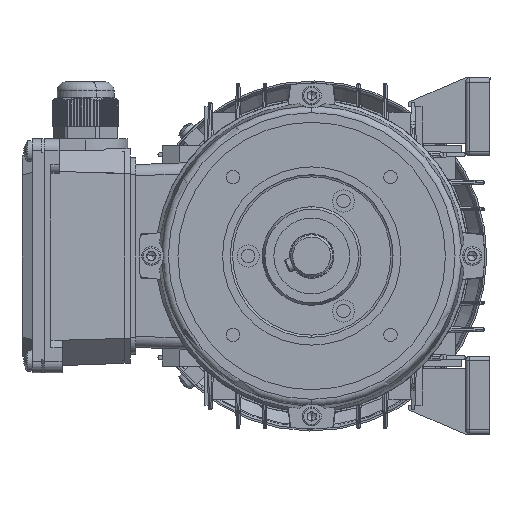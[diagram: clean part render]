
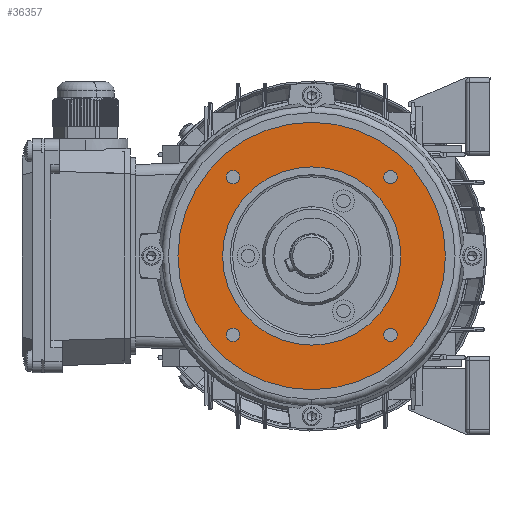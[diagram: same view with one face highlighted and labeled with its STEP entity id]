
A CAD part, left-side view. The second image highlights one B-rep face of the part: STEP entity #36357.
In plain terms, the highlighted planar face has unit normal (-1, 0, 0).
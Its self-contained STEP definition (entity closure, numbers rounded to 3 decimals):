
#57 = AXIS2_PLACEMENT_3D ( 'NONE', #102629, #90142, #77668 ) ;
#815 = CIRCLE ( 'NONE', #57, 40. ) ;
#1204 = CARTESIAN_POINT ( 'NONE',  ( 3., 0., 0. ) ) ;
#2093 = ORIENTED_EDGE ( 'NONE', *, *, #99216, .T. ) ;
#2848 = CIRCLE ( 'NONE', #53920, 60. ) ;
#3923 = VERTEX_POINT ( 'NONE', #84645 ) ;
#5276 = ORIENTED_EDGE ( 'NONE', *, *, #87712, .F. ) ;
#6150 = ORIENTED_EDGE ( 'NONE', *, *, #39615, .T. ) ;
#6415 = CARTESIAN_POINT ( 'NONE',  ( 3., 0., 60. ) ) ;
#6441 = CIRCLE ( 'NONE', #79436, 3. ) ;
#8243 = VERTEX_POINT ( 'NONE', #121411 ) ;
#8485 = CARTESIAN_POINT ( 'NONE',  ( 3., -35.355, -35.355 ) ) ;
#9315 = DIRECTION ( 'NONE',  ( 1., 0., 0. ) ) ;
#9932 = CARTESIAN_POINT ( 'NONE',  ( 3., 35.355, -32.355 ) ) ;
#11653 = AXIS2_PLACEMENT_3D ( 'NONE', #21135, #117996, #105533 ) ;
#12021 = VERTEX_POINT ( 'NONE', #6415 ) ;
#16334 = EDGE_CURVE ( 'NONE', #55358, #69787, #66948, .T. ) ;
#17006 = CARTESIAN_POINT ( 'NONE',  ( 3., 0., 0. ) ) ;
#18445 = DIRECTION ( 'NONE',  ( 0., 0., -1. ) ) ;
#19409 = AXIS2_PLACEMENT_3D ( 'NONE', #67683, #55233, #42771 ) ;
#20410 = ORIENTED_EDGE ( 'NONE', *, *, #100701, .T. ) ;
#21135 = CARTESIAN_POINT ( 'NONE',  ( 3., -35.355, 35.355 ) ) ;
#21249 = EDGE_CURVE ( 'NONE', #108180, #116247, #6441, .T. ) ;
#21806 = CARTESIAN_POINT ( 'NONE',  ( 3., 40., 0. ) ) ;
#24131 = CIRCLE ( 'NONE', #42537, 3. ) ;
#28409 = AXIS2_PLACEMENT_3D ( 'NONE', #65370, #52929, #40447 ) ;
#30955 = DIRECTION ( 'NONE',  ( 1., 0., 0. ) ) ;
#31699 = AXIS2_PLACEMENT_3D ( 'NONE', #17006, #88925, #76431 ) ;
#35713 = DIRECTION ( 'NONE',  ( 0., 0., 1. ) ) ;
#36357 = ADVANCED_FACE ( 'NONE', ( #51565, #57829, #60956, #64096, #70383, #76689 ), #46773, .F. ) ;
#36514 = EDGE_CURVE ( 'NONE', #12021, #43136, #114755, .T. ) ;
#37193 = EDGE_LOOP ( 'NONE', ( #5276, #118831 ) ) ;
#39615 = EDGE_CURVE ( 'NONE', #66086, #99399, #60856, .T. ) ;
#40447 = DIRECTION ( 'NONE',  ( 0., 0., -1. ) ) ;
#40477 = CIRCLE ( 'NONE', #48049, 3. ) ;
#41073 = EDGE_CURVE ( 'NONE', #69787, #55358, #89764, .T. ) ;
#42537 = AXIS2_PLACEMENT_3D ( 'NONE', #43421, #30955, #18445 ) ;
#42771 = DIRECTION ( 'NONE',  ( 0., 0., -1. ) ) ;
#42908 = EDGE_LOOP ( 'NONE', ( #103265, #89569 ) ) ;
#42947 = AXIS2_PLACEMENT_3D ( 'NONE', #1204, #48193, #35713 ) ;
#43136 = VERTEX_POINT ( 'NONE', #81365 ) ;
#43421 = CARTESIAN_POINT ( 'NONE',  ( 3., 35.355, -35.355 ) ) ;
#44403 = EDGE_CURVE ( 'NONE', #3923, #8243, #110980, .T. ) ;
#44979 = CARTESIAN_POINT ( 'NONE',  ( 3., -35.355, -32.355 ) ) ;
#45245 = AXIS2_PLACEMENT_3D ( 'NONE', #119173, #106727, #94201 ) ;
#45285 = AXIS2_PLACEMENT_3D ( 'NONE', #21806, #9315, #118671 ) ;
#46773 = PLANE ( 'NONE',  #45285 ) ;
#48049 = AXIS2_PLACEMENT_3D ( 'NONE', #119180, #106733, #94206 ) ;
#48193 = DIRECTION ( 'NONE',  ( -1., 0., 0. ) ) ;
#50345 = VERTEX_POINT ( 'NONE', #9932 ) ;
#50663 = EDGE_CURVE ( 'NONE', #116247, #108180, #40477, .T. ) ;
#51565 = FACE_BOUND ( 'NONE', #100033, .T. ) ;
#52929 = DIRECTION ( 'NONE',  ( 1., 0., 0. ) ) ;
#53920 = AXIS2_PLACEMENT_3D ( 'NONE', #118411, #105949, #93447 ) ;
#53969 = CARTESIAN_POINT ( 'NONE',  ( 3., 35.355, 38.355 ) ) ;
#55233 = DIRECTION ( 'NONE',  ( 1., 0., 0. ) ) ;
#55358 = VERTEX_POINT ( 'NONE', #102937 ) ;
#57829 = FACE_BOUND ( 'NONE', #63547, .T. ) ;
#60856 = CIRCLE ( 'NONE', #19409, 3. ) ;
#60956 = FACE_BOUND ( 'NONE', #84936, .T. ) ;
#62057 = EDGE_LOOP ( 'NONE', ( #68559, #2093 ) ) ;
#63547 = EDGE_LOOP ( 'NONE', ( #71222, #112896 ) ) ;
#64096 = FACE_BOUND ( 'NONE', #42908, .T. ) ;
#65370 = CARTESIAN_POINT ( 'NONE',  ( 3., -35.355, 35.355 ) ) ;
#66086 = VERTEX_POINT ( 'NONE', #44979 ) ;
#66903 = ORIENTED_EDGE ( 'NONE', *, *, #21249, .T. ) ;
#66948 = CIRCLE ( 'NONE', #28409, 3. ) ;
#67683 = CARTESIAN_POINT ( 'NONE',  ( 3., -35.355, -35.355 ) ) ;
#67810 = CARTESIAN_POINT ( 'NONE',  ( 3., 35.355, -38.355 ) ) ;
#68559 = ORIENTED_EDGE ( 'NONE', *, *, #36514, .T. ) ;
#69787 = VERTEX_POINT ( 'NONE', #98308 ) ;
#70383 = FACE_BOUND ( 'NONE', #37193, .T. ) ;
#71222 = ORIENTED_EDGE ( 'NONE', *, *, #41073, .T. ) ;
#72571 = VERTEX_POINT ( 'NONE', #67810 ) ;
#75928 = CARTESIAN_POINT ( 'NONE',  ( 3., 35.355, 32.355 ) ) ;
#76431 = DIRECTION ( 'NONE',  ( 0., 0., 1. ) ) ;
#76689 = FACE_OUTER_BOUND ( 'NONE', #62057, .T. ) ;
#77668 = DIRECTION ( 'NONE',  ( 0., 0., 1. ) ) ;
#79436 = AXIS2_PLACEMENT_3D ( 'NONE', #111746, #99214, #86742 ) ;
#81365 = CARTESIAN_POINT ( 'NONE',  ( 3., 0., -60. ) ) ;
#82455 = EDGE_CURVE ( 'NONE', #72571, #50345, #24131, .T. ) ;
#84645 = CARTESIAN_POINT ( 'NONE',  ( 3., 0., -40. ) ) ;
#84936 = EDGE_LOOP ( 'NONE', ( #20410, #6150 ) ) ;
#86742 = DIRECTION ( 'NONE',  ( 0., 0., -1. ) ) ;
#87027 = AXIS2_PLACEMENT_3D ( 'NONE', #8485, #117837, #105366 ) ;
#87712 = EDGE_CURVE ( 'NONE', #8243, #3923, #815, .T. ) ;
#88925 = DIRECTION ( 'NONE',  ( -1., 0., 0. ) ) ;
#89569 = ORIENTED_EDGE ( 'NONE', *, *, #91455, .T. ) ;
#89764 = CIRCLE ( 'NONE', #11653, 3. ) ;
#90142 = DIRECTION ( 'NONE',  ( -1., 0., 0. ) ) ;
#91455 = EDGE_CURVE ( 'NONE', #50345, #72571, #96749, .T. ) ;
#93447 = DIRECTION ( 'NONE',  ( 0., 0., 1. ) ) ;
#94201 = DIRECTION ( 'NONE',  ( 0., 0., -1. ) ) ;
#94206 = DIRECTION ( 'NONE',  ( 0., 0., -1. ) ) ;
#96749 = CIRCLE ( 'NONE', #45245, 3. ) ;
#98308 = CARTESIAN_POINT ( 'NONE',  ( 3., -35.355, 32.355 ) ) ;
#99214 = DIRECTION ( 'NONE',  ( 1., 0., 0. ) ) ;
#99216 = EDGE_CURVE ( 'NONE', #43136, #12021, #2848, .T. ) ;
#99399 = VERTEX_POINT ( 'NONE', #120538 ) ;
#100033 = EDGE_LOOP ( 'NONE', ( #121423, #66903 ) ) ;
#100701 = EDGE_CURVE ( 'NONE', #99399, #66086, #107133, .T. ) ;
#102629 = CARTESIAN_POINT ( 'NONE',  ( 3., 0., 0. ) ) ;
#102937 = CARTESIAN_POINT ( 'NONE',  ( 3., -35.355, 38.355 ) ) ;
#103265 = ORIENTED_EDGE ( 'NONE', *, *, #82455, .T. ) ;
#105366 = DIRECTION ( 'NONE',  ( 0., 0., -1. ) ) ;
#105533 = DIRECTION ( 'NONE',  ( 0., 0., -1. ) ) ;
#105949 = DIRECTION ( 'NONE',  ( -1., 0., 0. ) ) ;
#106727 = DIRECTION ( 'NONE',  ( 1., 0., 0. ) ) ;
#106733 = DIRECTION ( 'NONE',  ( 1., 0., 0. ) ) ;
#107133 = CIRCLE ( 'NONE', #87027, 3. ) ;
#108180 = VERTEX_POINT ( 'NONE', #53969 ) ;
#110980 = CIRCLE ( 'NONE', #31699, 40. ) ;
#111746 = CARTESIAN_POINT ( 'NONE',  ( 3., 35.355, 35.355 ) ) ;
#112896 = ORIENTED_EDGE ( 'NONE', *, *, #16334, .T. ) ;
#114755 = CIRCLE ( 'NONE', #42947, 60. ) ;
#116247 = VERTEX_POINT ( 'NONE', #75928 ) ;
#117837 = DIRECTION ( 'NONE',  ( 1., 0., 0. ) ) ;
#117996 = DIRECTION ( 'NONE',  ( 1., 0., 0. ) ) ;
#118411 = CARTESIAN_POINT ( 'NONE',  ( 3., 0., 0. ) ) ;
#118671 = DIRECTION ( 'NONE',  ( 0., 0., -1. ) ) ;
#118831 = ORIENTED_EDGE ( 'NONE', *, *, #44403, .F. ) ;
#119173 = CARTESIAN_POINT ( 'NONE',  ( 3., 35.355, -35.355 ) ) ;
#119180 = CARTESIAN_POINT ( 'NONE',  ( 3., 35.355, 35.355 ) ) ;
#120538 = CARTESIAN_POINT ( 'NONE',  ( 3., -35.355, -38.355 ) ) ;
#121411 = CARTESIAN_POINT ( 'NONE',  ( 3., 0., 40. ) ) ;
#121423 = ORIENTED_EDGE ( 'NONE', *, *, #50663, .T. ) ;
